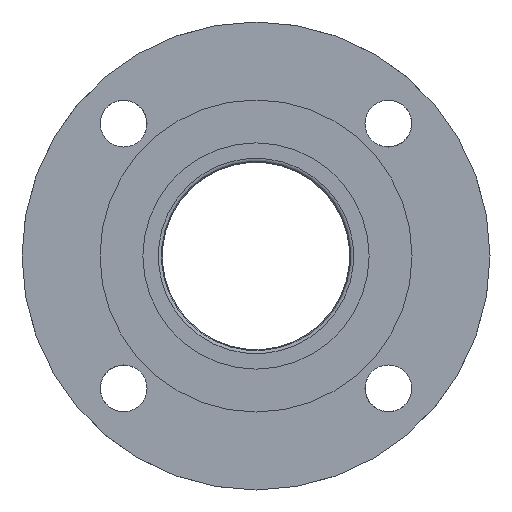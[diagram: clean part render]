
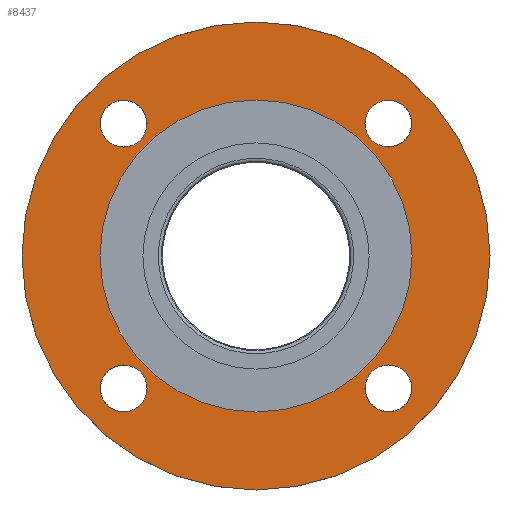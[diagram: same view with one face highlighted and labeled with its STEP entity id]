
A CAD part, front view. The second image highlights one B-rep face of the part: STEP entity #8437.
In plain terms, the highlighted planar face has unit normal (0, -1, 0) as drawn and (0, 1, 0) by its records, which use the part's own axes.
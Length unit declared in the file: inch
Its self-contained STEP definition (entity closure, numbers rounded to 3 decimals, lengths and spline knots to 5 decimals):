
#8222=CARTESIAN_POINT('',(-2.12132,0.5625,2.49632));
#8223=VERTEX_POINT('',#8222);
#8224=CARTESIAN_POINT('',(-2.12132,0.5625,2.12132));
#8225=DIRECTION('',(0.0,-1.0,0.0));
#8226=DIRECTION('',(0.0,0.0,1.0));
#8227=AXIS2_PLACEMENT_3D('',#8224,#8225,#8226);
#8228=CIRCLE('',#8227,0.375);
#8229=EDGE_CURVE('',#8223,#8223,#8228,.T.);
#8250=CARTESIAN_POINT('',(-2.49632,0.5625,-2.12132));
#8251=VERTEX_POINT('',#8250);
#8252=CARTESIAN_POINT('',(-2.12132,0.5625,-2.12132));
#8253=DIRECTION('',(0.0,-1.0,0.0));
#8254=DIRECTION('',(-1.0,0.0,0.0));
#8255=AXIS2_PLACEMENT_3D('',#8252,#8253,#8254);
#8256=CIRCLE('',#8255,0.375);
#8257=EDGE_CURVE('',#8251,#8251,#8256,.T.);
#8278=CARTESIAN_POINT('',(2.12132,0.5625,-2.49632));
#8279=VERTEX_POINT('',#8278);
#8280=CARTESIAN_POINT('',(2.12132,0.5625,-2.12132));
#8281=DIRECTION('',(0.0,-1.0,0.0));
#8282=DIRECTION('',(0.0,0.0,-1.0));
#8283=AXIS2_PLACEMENT_3D('',#8280,#8281,#8282);
#8284=CIRCLE('',#8283,0.375);
#8285=EDGE_CURVE('',#8279,#8279,#8284,.T.);
#8306=CARTESIAN_POINT('',(2.49632,0.5625,2.12132));
#8307=VERTEX_POINT('',#8306);
#8308=CARTESIAN_POINT('',(2.12132,0.5625,2.12132));
#8309=DIRECTION('',(0.0,-1.0,0.0));
#8310=DIRECTION('',(1.0,0.0,0.0));
#8311=AXIS2_PLACEMENT_3D('',#8308,#8309,#8310);
#8312=CIRCLE('',#8311,0.375);
#8313=EDGE_CURVE('',#8307,#8307,#8312,.T.);
#8334=CARTESIAN_POINT('',(2.5,0.5625,0.));
#8335=VERTEX_POINT('',#8334);
#8336=CARTESIAN_POINT('',(0.0,0.5625,0.0));
#8337=DIRECTION('',(0.0,-1.0,0.0));
#8338=DIRECTION('',(-1.0,0.0,0.0));
#8339=AXIS2_PLACEMENT_3D('',#8336,#8337,#8338);
#8340=CIRCLE('',#8339,2.5);
#8341=EDGE_CURVE('',#8335,#8335,#8340,.T.);
#8391=CARTESIAN_POINT('',(-3.75,0.5625,0.));
#8392=VERTEX_POINT('',#8391);
#8393=CARTESIAN_POINT('',(0.0,0.5625,0.0));
#8394=DIRECTION('',(0.0,-1.0,0.0));
#8395=DIRECTION('',(1.0,0.0,0.0));
#8396=AXIS2_PLACEMENT_3D('',#8393,#8394,#8395);
#8397=CIRCLE('',#8396,3.75);
#8398=EDGE_CURVE('',#8392,#8392,#8397,.T.);
#8414=CARTESIAN_POINT('',(0.0,0.5625,0.0));
#8415=DIRECTION('',(0.0,-1.0,0.0));
#8416=DIRECTION('',(0.0,0.0,-1.0));
#8417=AXIS2_PLACEMENT_3D('',#8414,#8415,#8416);
#8418=PLANE('',#8417);
#8419=ORIENTED_EDGE('',*,*,#8398,.F.);
#8420=EDGE_LOOP('',(#8419));
#8421=FACE_OUTER_BOUND('',#8420,.T.);
#8422=ORIENTED_EDGE('',*,*,#8229,.T.);
#8423=EDGE_LOOP('',(#8422));
#8424=FACE_BOUND('',#8423,.T.);
#8425=ORIENTED_EDGE('',*,*,#8257,.T.);
#8426=EDGE_LOOP('',(#8425));
#8427=FACE_BOUND('',#8426,.T.);
#8428=ORIENTED_EDGE('',*,*,#8285,.T.);
#8429=EDGE_LOOP('',(#8428));
#8430=FACE_BOUND('',#8429,.T.);
#8431=ORIENTED_EDGE('',*,*,#8313,.T.);
#8432=EDGE_LOOP('',(#8431));
#8433=FACE_BOUND('',#8432,.T.);
#8434=ORIENTED_EDGE('',*,*,#8341,.T.);
#8435=EDGE_LOOP('',(#8434));
#8436=FACE_BOUND('',#8435,.T.);
#8437=ADVANCED_FACE('',(#8421,#8424,#8427,#8430,#8433,#8436),#8418,.F.);
